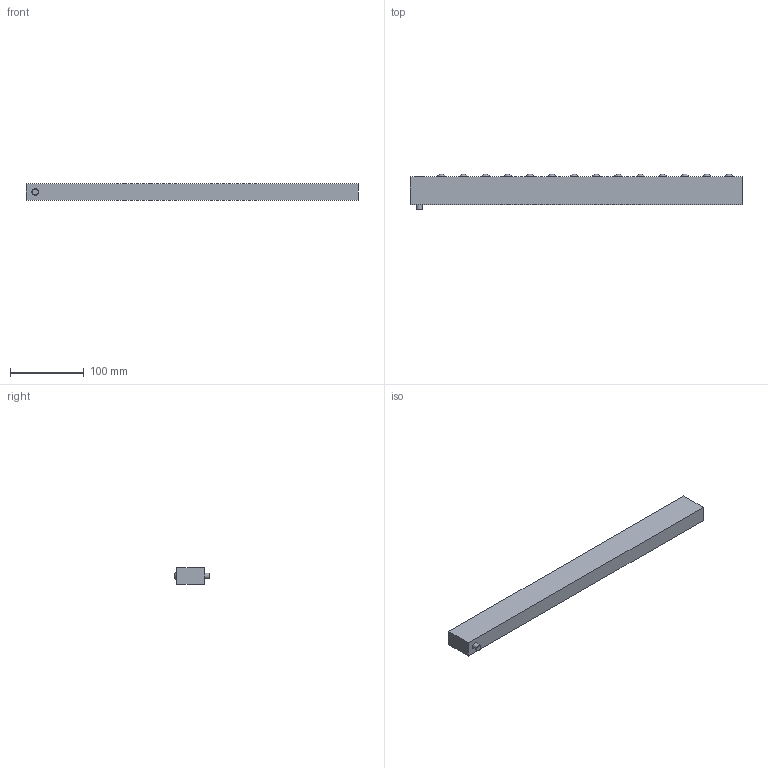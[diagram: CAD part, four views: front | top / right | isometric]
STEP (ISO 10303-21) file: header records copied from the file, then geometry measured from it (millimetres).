
FILE_DESCRIPTION(/* description */ (''),/* implementation_level */ '2;1');
FILE_NAME(/* name */ 'V:\Shrinkwrap\EMB\EMB - SHRINKWRAP\EMB22\EMB22-14_Shrinkwrap_1.stp',/* time_stamp */ '2022-08-12T10:45:53+02:00',/* author */ ('cw'),/* organization */ (''),/* preprocessor_version */ 'ST-DEVELOPER v17',/* originating_system */ 'Autodesk Inventor 2019',/* authorisation */ '');
FILE_SCHEMA (('AUTOMOTIVE_DESIGN { 1 0 10303 214 3 1 1 }'));
Length unit declared in the file: millimetre
Products named in the file (1): EMB22-14_Shrinkwrap_1
Bounding box: 450 x 48.46 x 21.8 mm (x, y, z)
Volume: 370829.5 mm3; surface area: 58118.1 mm2
Topology: 1 solids, 1 shells, 28 faces, 42 edges, 36 vertices
Faces by surface type: sphere 14, plane 10, cylinder 4
Full cylindrical faces by diameter (mm): 8 x1, 9 x1, 13 x1, 14 x1
Entity records: 742 total; most frequent: DIRECTION 122, CARTESIAN_POINT 105, ORIENTED_EDGE 80, AXIS2_PLACEMENT_3D 53, EDGE_LOOP 46, EDGE_CURVE 40, VERTEX_POINT 32, STYLED_ITEM 31
